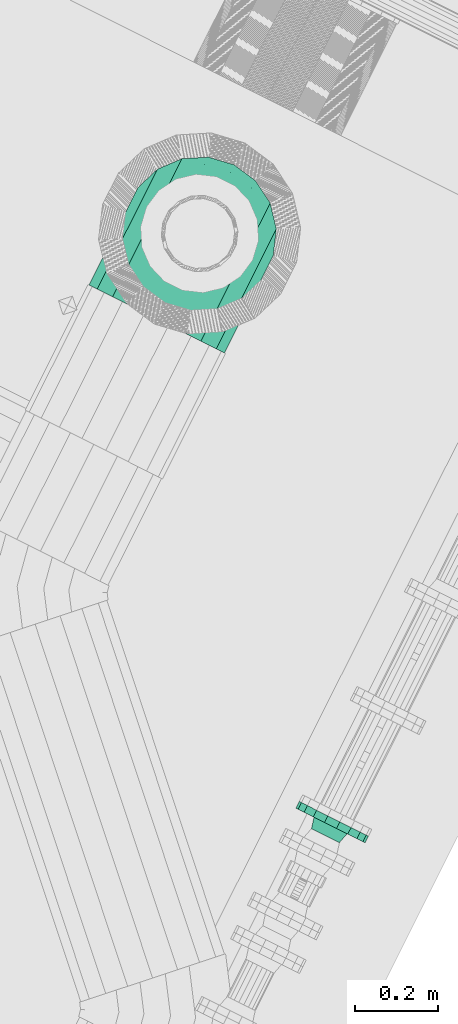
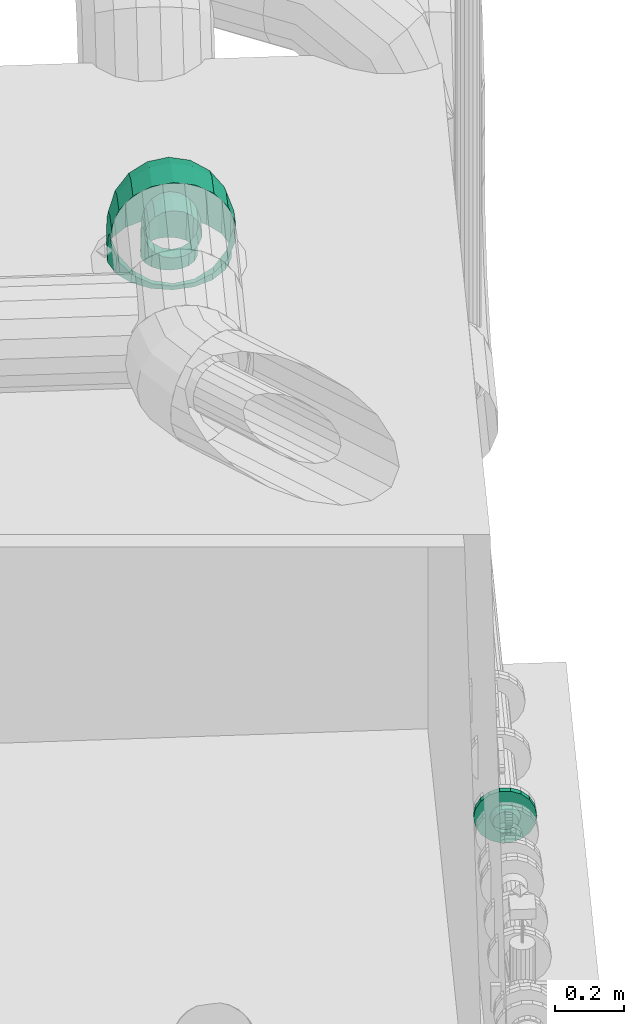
# One storey, part 80 of 206: 1 flow fitting, 1 flow segment.
"""IFC2X3 building model written with IfcOpenShell, lengths in metres."""

from ifc_helpers import new_model, si_unit, derived_unit, direction, frame, origin, place, context, subcontext, project, spatial, face_set, surface_model, source, transform, mapped, material, type_object, type_shapes, element, save


model = new_model("IFC2X3")

# Units and contexts
model_context = context("Model", 3, precision=5.2338327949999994e-05, world=origin(), true_north=direction((0.0, 1.0)))
body_context = subcontext(model_context, "Body", "Model", "MODEL_VIEW")
ifc_project = project(units=[si_unit("LENGTHUNIT", "METRE"), si_unit("AREAUNIT", "SQUARE_METRE"), si_unit("VOLUMEUNIT", "CUBIC_METRE"), si_unit("MASSUNIT", "GRAM", prefix="KILO"), si_unit("PLANEANGLEUNIT", "RADIAN"), derived_unit("THERMALTRANSMITTANCEUNIT", [(si_unit("MASSUNIT", "GRAM", prefix="KILO"), 1), (si_unit("THERMODYNAMICTEMPERATUREUNIT", "KELVIN"), -1), (si_unit("TIMEUNIT", "SECOND"), -3)])], contexts=[model_context])

# Site, building, storey
site_placement = place(None, frame((0.0, 0.0, 0.0), z_axis=(0.0, 0.0, 1.0), x_axis=(0.8939966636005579, -0.4480736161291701, 0.0)))
site = spatial("IfcSite", under=ifc_project, at=site_placement, Name="Default", CompositionType="ELEMENT")
building_placement = place(site_placement, origin())
building = spatial("IfcBuilding", under=site, at=building_placement, CompositionType="ELEMENT")
storey_placement = place(building_placement, origin())
storey = spatial("IfcBuildingStorey", under=building, at=storey_placement, Name="Erdgeschoss", CompositionType="ELEMENT", Elevation=0.0)

# Flow segment
ifc_material_1 = material(Name="IfcSurfaceStyle #9317")
distribution_element_type_1 = type_object("IfcDistributionElementType", Name="Rohrbogen 340584:Rohrbogen 340584", material=ifc_material_1)
shared_shape_1 = source(origin(), body_context, "Body", "SurfaceModel", [
    surface_model("IfcFaceBasedSurfaceModel", [(26.529823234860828, 7.451457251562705, 2.125000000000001), (26.50104223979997, 7.446382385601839, 2.1250000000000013), (26.50104223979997, 7.4313041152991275, 2.2202004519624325), (26.529823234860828, 7.436130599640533, 2.2217686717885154), (26.50104223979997, 7.387545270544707, 2.3060820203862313), (26.529823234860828, 7.3916509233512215, 2.3090649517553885), (26.50104223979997, 7.319389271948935, 2.3742380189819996), (26.529823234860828, 7.322372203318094, 2.3783436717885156), (26.50104223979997, 7.23350770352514, 2.4179968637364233), (26.529823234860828, 7.235075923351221, 2.422823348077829), (26.50104223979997, 7.138307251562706, 2.4330751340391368), (26.529823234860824, 7.138307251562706, 2.438150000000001), (26.4757326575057, 7.431769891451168, 2.1250000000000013), (26.4757326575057, 7.417406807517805, 2.2156849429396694), (26.475732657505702, 7.375723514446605, 2.2974930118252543), (26.475732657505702, 7.310800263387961, 2.3624162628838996), (26.475732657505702, 7.228992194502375, 2.4040995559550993), (26.475732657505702, 7.138307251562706, 2.418462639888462), (26.45694719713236, 7.409382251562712, 2.1250000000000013), (26.45694719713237, 7.396114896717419, 2.20876678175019), (26.45694719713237, 7.357611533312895, 2.2843338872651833), (26.45694719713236, 7.297641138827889, 2.3443042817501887), (26.45694719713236, 7.2220740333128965, 2.3828076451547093), (26.45694719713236, 7.138307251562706, 2.3960750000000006), (26.446951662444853, 7.381919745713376, 2.1250000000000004), (26.446951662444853, 7.369996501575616, 2.200280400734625), (26.44695166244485, 7.335393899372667, 2.268191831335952), (26.446951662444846, 7.281499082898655, 2.3220866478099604), (26.446951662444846, 7.21358765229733, 2.356689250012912), (26.44695166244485, 7.138307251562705, 2.368612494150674), (26.44695166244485, 7.352694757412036, 2.125000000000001), (26.44695166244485, 7.342201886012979, 2.1912493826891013), (26.44695166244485, 7.3117503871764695, 2.251013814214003), (26.44695166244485, 7.26432106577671, 2.298443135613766), (26.44695166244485, 7.204556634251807, 2.3288946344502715), (26.446951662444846, 7.138307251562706, 2.3393875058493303), (26.456947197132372, 7.3252322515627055, 2.125000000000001), (26.45694719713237, 7.316083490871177, 2.1827630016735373), (26.456947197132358, 7.289532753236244, 2.2348717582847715), (26.456947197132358, 7.2481790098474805, 2.2762255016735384), (26.45694719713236, 7.196070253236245, 2.302776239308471), (26.45694719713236, 7.13830725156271, 2.3119250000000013), (26.4757326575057, 7.302844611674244, 2.1250000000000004), (26.4757326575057, 7.294791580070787, 2.1758448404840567), (26.4757326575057, 7.271420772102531, 2.221712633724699), (26.4757326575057, 7.235019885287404, 2.258113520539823), (26.4757326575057, 7.18915209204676, 2.28148432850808), (26.4757326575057, 7.138307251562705, 2.2895373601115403), (26.501042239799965, 7.288232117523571, 2.1250000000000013), (26.501042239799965, 7.280894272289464, 2.1713293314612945), (26.501042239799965, 7.259599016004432, 2.2131236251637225), (26.501042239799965, 7.226430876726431, 2.2462917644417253), (26.501042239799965, 7.184636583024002, 2.267587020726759), (26.501042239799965, 7.138307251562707, 2.274924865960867), (26.529823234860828, 7.283157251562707, 2.1250000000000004), (26.529823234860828, 7.276067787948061, 2.169761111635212), (26.529823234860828, 7.255493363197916, 2.210140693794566), (26.529823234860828, 7.223447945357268, 2.2421861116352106), (26.529823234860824, 7.183068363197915, 2.2627605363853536), (26.529823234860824, 7.138307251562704, 2.269850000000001), (26.558604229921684, 7.288232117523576, 2.1250000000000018), (26.558604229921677, 7.280894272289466, 2.171329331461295), (26.558604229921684, 7.259599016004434, 2.213123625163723), (26.558604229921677, 7.226430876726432, 2.246291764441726), (26.558604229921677, 7.184636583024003, 2.267587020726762), (26.558604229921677, 7.138307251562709, 2.2749248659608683), (26.583913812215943, 7.302844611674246, 2.125000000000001), (26.583913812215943, 7.294791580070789, 2.1758448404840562), (26.58391381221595, 7.271420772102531, 2.221712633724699), (26.583913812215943, 7.235019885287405, 2.258113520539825), (26.583913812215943, 7.189152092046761, 2.2814843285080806), (26.583913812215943, 7.138307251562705, 2.289537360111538), (26.602699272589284, 7.3252322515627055, 2.125000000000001), (26.602699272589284, 7.316083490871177, 2.1827630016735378), (26.602699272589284, 7.2895327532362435, 2.2348717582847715), (26.602699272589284, 7.248179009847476, 2.2762255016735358), (26.602699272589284, 7.196070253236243, 2.3027762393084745), (26.60269927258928, 7.138307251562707, 2.3119250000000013), (26.612694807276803, 7.352694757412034, 2.125000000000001), (26.612694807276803, 7.342201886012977, 2.1912493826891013), (26.612694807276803, 7.31175038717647, 2.251013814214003), (26.612694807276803, 7.264321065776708, 2.298443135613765), (26.612694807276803, 7.204556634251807, 2.3288946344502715), (26.612694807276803, 7.138307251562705, 2.33938750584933), (26.612694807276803, 7.381919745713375, 2.125000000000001), (26.612694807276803, 7.369996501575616, 2.2002804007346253), (26.612694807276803, 7.335393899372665, 2.2681918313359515), (26.612694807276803, 7.281499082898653, 2.3220866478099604), (26.612694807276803, 7.2135876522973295, 2.356689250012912), (26.612694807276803, 7.138307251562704, 2.3686124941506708), (26.602699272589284, 7.409382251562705, 2.125000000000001), (26.602699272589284, 7.396114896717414, 2.2087667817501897), (26.602699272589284, 7.357611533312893, 2.2843338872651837), (26.602699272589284, 7.297641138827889, 2.344304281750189), (26.602699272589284, 7.222074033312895, 2.3828076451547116), (26.60269927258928, 7.138307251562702, 2.396075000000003), (26.58391381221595, 7.43176989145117, 2.1250000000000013), (26.58391381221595, 7.417406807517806, 2.2156849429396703), (26.58391381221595, 7.375723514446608, 2.2974930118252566), (26.58391381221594, 7.310800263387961, 2.3624162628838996), (26.583913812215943, 7.228992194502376, 2.4040995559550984), (26.583913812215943, 7.138307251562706, 2.4184626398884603), (26.558604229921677, 7.446382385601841, 2.1250000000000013), (26.558604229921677, 7.4313041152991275, 2.2202004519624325), (26.558604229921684, 7.387545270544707, 2.3060820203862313), (26.558604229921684, 7.319389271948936, 2.374238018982), (26.558604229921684, 7.233507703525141, 2.4179968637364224), (26.558604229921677, 7.138307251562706, 2.433075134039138), (26.529823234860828, 7.551457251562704, 2.1250000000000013), (26.466840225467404, 7.540351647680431, 2.1250000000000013), (26.466840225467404, 7.520674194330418, 2.249238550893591), (26.529823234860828, 7.531236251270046, 2.2526703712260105), (26.466840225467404, 7.463568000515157, 2.3613157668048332), (26.529823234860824, 7.472552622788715, 2.367843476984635), (26.4668402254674, 7.374623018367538, 2.4502607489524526), (26.529823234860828, 7.381150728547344, 2.4592453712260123), (26.4668402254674, 7.262545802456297, 2.5073669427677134), (26.529823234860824, 7.265977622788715, 2.5179289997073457), (26.4668402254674, 7.138307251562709, 2.527044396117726), (26.529823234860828, 7.138307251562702, 2.5381500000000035), (26.411453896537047, 7.50837433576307, 2.125000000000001), (26.411453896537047, 7.490261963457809, 2.239357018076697), (26.41145389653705, 7.437697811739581, 2.34251997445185), (26.411453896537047, 7.355827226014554, 2.424390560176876), (26.411453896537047, 7.252664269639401, 2.4769547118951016), (26.411453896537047, 7.138307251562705, 2.49506708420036), (26.37034465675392, 7.4593822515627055, 2.125000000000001), (26.37034465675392, 7.443667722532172, 2.224217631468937), (26.370344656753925, 7.398062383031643, 2.3137231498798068), (26.37034465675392, 7.3270304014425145, 2.38475513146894), (26.37034465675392, 7.237524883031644, 2.4303604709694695), (26.37034465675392, 7.138307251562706, 2.446075), (26.348470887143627, 7.399284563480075, 2.125000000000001), (26.348470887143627, 7.386511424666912, 2.205646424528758), (26.348470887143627, 7.349442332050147, 2.278398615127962), (26.348470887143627, 7.291705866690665, 2.3361350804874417), (26.348470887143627, 7.218953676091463, 2.373204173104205), (26.348470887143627, 7.138307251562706, 2.3859773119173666), (26.348470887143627, 7.33532993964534, 2.1250000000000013), (26.348470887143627, 7.325686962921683, 2.1858833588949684), (26.348470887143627, 7.29770195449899, 2.2408070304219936), (26.348470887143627, 7.254114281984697, 2.284394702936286), (26.348470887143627, 7.1991906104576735, 2.312379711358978), (26.348470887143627, 7.138307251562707, 2.322022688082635), (26.370344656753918, 7.275232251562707, 2.125000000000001), (26.37034465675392, 7.2685306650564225, 2.16731215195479), (26.37034465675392, 7.249081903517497, 2.2054824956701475), (26.37034465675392, 7.2187897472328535, 2.23577465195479), (26.37034465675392, 7.180619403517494, 2.2552234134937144), (26.37034465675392, 7.138307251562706, 2.2619249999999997), (26.411453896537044, 7.226240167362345, 2.125000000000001), (26.411453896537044, 7.221936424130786, 2.1521727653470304), (26.411453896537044, 7.209446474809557, 2.176685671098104), (26.411453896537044, 7.189992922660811, 2.1961392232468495), (26.41145389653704, 7.165480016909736, 2.20862917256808), (26.411453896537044, 7.138307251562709, 2.212932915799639), (26.4668402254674, 7.194262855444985, 2.125000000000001), (26.4668402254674, 7.191524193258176, 2.1422912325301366), (26.466840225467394, 7.183576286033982, 2.1578898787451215), (26.4668402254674, 7.171197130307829, 2.1702690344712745), (26.4668402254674, 7.155598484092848, 2.1782169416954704), (26.4668402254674, 7.138307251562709, 2.1809556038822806), (26.529823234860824, 7.183157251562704, 2.125000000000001), (26.529823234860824, 7.1809621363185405, 2.1388594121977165), (26.529823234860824, 7.174591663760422, 2.151362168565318), (26.529823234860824, 7.164669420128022, 2.1612844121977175), (26.529823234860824, 7.152166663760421, 2.1676548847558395), (26.529823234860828, 7.138307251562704, 2.169850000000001), (26.592806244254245, 7.194262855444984, 2.125000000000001), (26.592806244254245, 7.191524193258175, 2.142291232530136), (26.59280624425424, 7.183576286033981, 2.1578898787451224), (26.59280624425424, 7.171197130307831, 2.170269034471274), (26.59280624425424, 7.155598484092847, 2.178216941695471), (26.592806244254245, 7.138307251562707, 2.1809556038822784), (26.6481925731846, 7.226240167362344, 2.125000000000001), (26.6481925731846, 7.221936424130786, 2.1521727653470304), (26.6481925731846, 7.209446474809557, 2.176685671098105), (26.6481925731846, 7.189992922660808, 2.196139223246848), (26.6481925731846, 7.165480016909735, 2.2086291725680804), (26.6481925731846, 7.138307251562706, 2.2129329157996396), (26.68930181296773, 7.2752322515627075, 2.125000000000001), (26.68930181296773, 7.2685306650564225, 2.167312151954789), (26.68930181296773, 7.249081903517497, 2.205482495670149), (26.68930181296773, 7.218789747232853, 2.235774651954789), (26.68930181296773, 7.180619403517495, 2.2552234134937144), (26.68930181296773, 7.138307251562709, 2.261925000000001), (26.711175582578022, 7.33532993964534, 2.1250000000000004), (26.711175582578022, 7.325686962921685, 2.1858833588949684), (26.71117558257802, 7.29770195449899, 2.2408070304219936), (26.711175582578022, 7.254114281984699, 2.2843947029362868), (26.71117558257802, 7.199190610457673, 2.312379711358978), (26.711175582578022, 7.138307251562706, 2.3220226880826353), (26.711175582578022, 7.399284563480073, 2.125000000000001), (26.711175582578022, 7.386511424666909, 2.2056464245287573), (26.711175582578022, 7.349442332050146, 2.2783986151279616), (26.711175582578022, 7.291705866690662, 2.3361350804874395), (26.711175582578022, 7.218953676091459, 2.3732041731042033), (26.711175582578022, 7.138307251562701, 2.3859773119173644), (26.68930181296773, 7.459382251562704, 2.125000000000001), (26.689301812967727, 7.443667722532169, 2.224217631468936), (26.68930181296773, 7.3980623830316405, 2.3137231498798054), (26.68930181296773, 7.327030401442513, 2.3847551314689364), (26.689301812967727, 7.237524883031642, 2.4303604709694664), (26.689301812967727, 7.138307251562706, 2.4460750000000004), (26.6481925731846, 7.508374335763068, 2.125000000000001), (26.6481925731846, 7.490261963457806, 2.2393570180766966), (26.6481925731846, 7.4376978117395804, 2.3425199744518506), (26.6481925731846, 7.355827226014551, 2.4243905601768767), (26.6481925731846, 7.252664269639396, 2.4769547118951), (26.6481925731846, 7.138307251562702, 2.4950670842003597), (26.592806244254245, 7.5403516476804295, 2.125000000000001), (26.592806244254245, 7.520674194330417, 2.2492385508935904), (26.59280624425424, 7.4635680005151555, 2.361315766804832), (26.592806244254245, 7.374623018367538, 2.4502607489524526), (26.592806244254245, 7.262545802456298, 2.5073669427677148), (26.59280624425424, 7.138307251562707, 2.527044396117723)], [face_set([[[0, 1, 2, 3]], [[3, 2, 4, 5]], [[5, 4, 6, 7]], [[7, 6, 8, 9]], [[9, 8, 10, 11]], [[1, 12, 13, 2]], [[2, 13, 14, 4]], [[4, 14, 15, 6]], [[6, 15, 16, 8]], [[8, 16, 17, 10]], [[12, 18, 19, 13]], [[13, 19, 20, 14]], [[14, 20, 21, 15]], [[15, 21, 22, 16]], [[16, 22, 23, 17]], [[18, 24, 25, 19]], [[19, 25, 26, 20]], [[20, 26, 27, 21]], [[21, 27, 28, 22]], [[22, 28, 29, 23]], [[24, 30, 31, 25]], [[25, 31, 32, 26]], [[26, 32, 33, 27]], [[27, 33, 34, 28]], [[28, 34, 35, 29]], [[30, 36, 37, 31]], [[31, 37, 38, 32]], [[32, 38, 39, 33]], [[33, 39, 40, 34]], [[34, 40, 41, 35]], [[36, 42, 43, 37]], [[37, 43, 44, 38]], [[38, 44, 45, 39]], [[39, 45, 46, 40]], [[40, 46, 47, 41]], [[42, 48, 49, 43]], [[43, 49, 50, 44]], [[44, 50, 51, 45]], [[45, 51, 52, 46]], [[46, 52, 53, 47]], [[48, 54, 55, 49]], [[49, 55, 56, 50]], [[50, 56, 57, 51]], [[51, 57, 58, 52]], [[52, 58, 59, 53]], [[54, 60, 61, 55]], [[55, 61, 62, 56]], [[56, 62, 63, 57]], [[57, 63, 64, 58]], [[58, 64, 65, 59]], [[60, 66, 67, 61]], [[61, 67, 68, 62]], [[62, 68, 69, 63]], [[63, 69, 70, 64]], [[64, 70, 71, 65]], [[66, 72, 73, 67]], [[67, 73, 74, 68]], [[68, 74, 75, 69]], [[69, 75, 76, 70]], [[70, 76, 77, 71]], [[72, 78, 79, 73]], [[73, 79, 80, 74]], [[74, 80, 81, 75]], [[75, 81, 82, 76]], [[76, 82, 83, 77]], [[78, 84, 85, 79]], [[79, 85, 86, 80]], [[80, 86, 87, 81]], [[81, 87, 88, 82]], [[82, 88, 89, 83]], [[84, 90, 91, 85]], [[85, 91, 92, 86]], [[86, 92, 93, 87]], [[87, 93, 94, 88]], [[88, 94, 95, 89]], [[90, 96, 97, 91]], [[91, 97, 98, 92]], [[92, 98, 99, 93]], [[93, 99, 100, 94]], [[94, 100, 101, 95]], [[96, 102, 103, 97]], [[97, 103, 104, 98]], [[98, 104, 105, 99]], [[99, 105, 106, 100]], [[100, 106, 107, 101]], [[102, 0, 3, 103]], [[103, 3, 5, 104]], [[104, 5, 7, 105]], [[105, 7, 9, 106]], [[106, 9, 11, 107]], [[108, 109, 110, 111]], [[111, 110, 112, 113]], [[113, 112, 114, 115]], [[115, 114, 116, 117]], [[117, 116, 118, 119]], [[109, 120, 121, 110]], [[110, 121, 122, 112]], [[112, 122, 123, 114]], [[114, 123, 124, 116]], [[116, 124, 125, 118]], [[120, 126, 127, 121]], [[121, 127, 128, 122]], [[122, 128, 129, 123]], [[123, 129, 130, 124]], [[124, 130, 131, 125]], [[126, 132, 133, 127]], [[127, 133, 134, 128]], [[128, 134, 135, 129]], [[129, 135, 136, 130]], [[130, 136, 137, 131]], [[132, 138, 139, 133]], [[133, 139, 140, 134]], [[134, 140, 141, 135]], [[135, 141, 142, 136]], [[136, 142, 143, 137]], [[138, 144, 145, 139]], [[139, 145, 146, 140]], [[140, 146, 147, 141]], [[141, 147, 148, 142]], [[142, 148, 149, 143]], [[144, 150, 151, 145]], [[145, 151, 152, 146]], [[146, 152, 153, 147]], [[147, 153, 154, 148]], [[148, 154, 155, 149]], [[150, 156, 157, 151]], [[151, 157, 158, 152]], [[152, 158, 159, 153]], [[153, 159, 160, 154]], [[154, 160, 161, 155]], [[156, 162, 163, 157]], [[157, 163, 164, 158]], [[158, 164, 165, 159]], [[159, 165, 166, 160]], [[160, 166, 167, 161]], [[162, 168, 169, 163]], [[163, 169, 170, 164]], [[164, 170, 171, 165]], [[165, 171, 172, 166]], [[166, 172, 173, 167]], [[168, 174, 175, 169]], [[169, 175, 176, 170]], [[170, 176, 177, 171]], [[171, 177, 178, 172]], [[172, 178, 179, 173]], [[174, 180, 181, 175]], [[175, 181, 182, 176]], [[176, 182, 183, 177]], [[177, 183, 184, 178]], [[178, 184, 185, 179]], [[180, 186, 187, 181]], [[181, 187, 188, 182]], [[182, 188, 189, 183]], [[183, 189, 190, 184]], [[184, 190, 191, 185]], [[186, 192, 193, 187]], [[187, 193, 194, 188]], [[188, 194, 195, 189]], [[189, 195, 196, 190]], [[190, 196, 197, 191]], [[192, 198, 199, 193]], [[193, 199, 200, 194]], [[194, 200, 201, 195]], [[195, 201, 202, 196]], [[196, 202, 203, 197]], [[198, 204, 205, 199]], [[199, 205, 206, 200]], [[200, 206, 207, 201]], [[201, 207, 208, 202]], [[202, 208, 209, 203]], [[204, 210, 211, 205]], [[205, 211, 212, 206]], [[206, 212, 213, 207]], [[207, 213, 214, 208]], [[208, 214, 215, 209]], [[210, 108, 111, 211]], [[211, 111, 113, 212]], [[212, 113, 115, 213]], [[213, 115, 117, 214]], [[214, 117, 119, 215]]])]),
])
type_shapes(distribution_element_type_1, [shared_shape_1])
flow_segment_placement = place(storey_placement, origin())
element("IfcFlowSegment", 1, at=flow_segment_placement, inside=storey, type_object=distribution_element_type_1, material=ifc_material_1, Name="Rohrbogen", ObjectType="Rohrbogen", context=body_context, shape_type="MappedRepresentation", body=[
    mapped(shared_shape_1, transform((0.0, 0.0, 0.0), scale=1.0)),
])

# Flow fitting
ifc_material_2 = material(Name="IfcSurfaceStyle #352577")
distribution_element_type_2 = type_object("IfcDistributionElementType", Name="Flansch 604952:Flansch 604952", material=ifc_material_2)
shared_shape_2 = source(origin(), body_context, "Body", "SurfaceModel", [
    surface_model("IfcFaceBasedSurfaceModel", [(27.353142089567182, 6.25795839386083, 0.8699999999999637), (27.358720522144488, 6.25795839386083, 0.8383631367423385), (27.358720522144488, 6.239958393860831, 0.8383631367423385), (27.353142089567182, 6.239958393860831, 0.8699999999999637), (27.37478297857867, 6.25795839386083, 0.8105421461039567), (27.37478297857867, 6.239958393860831, 0.8105421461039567), (27.399392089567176, 6.25795839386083, 0.7898926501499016), (27.399392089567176, 6.239958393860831, 0.7898926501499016), (27.429579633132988, 6.25795839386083, 0.778905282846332), (27.429579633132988, 6.239958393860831, 0.778905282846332), (27.46170454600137, 6.25795839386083, 0.7789052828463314), (27.46170454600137, 6.239958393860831, 0.7789052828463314), (27.491892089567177, 6.25795839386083, 0.7898926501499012), (27.491892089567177, 6.239958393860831, 0.7898926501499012), (27.516501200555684, 6.25795839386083, 0.8105421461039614), (27.516501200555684, 6.239958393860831, 0.8105421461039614), (27.532563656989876, 6.25795839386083, 0.8383631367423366), (27.532563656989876, 6.239958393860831, 0.8383631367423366), (27.538142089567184, 6.25795839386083, 0.8699999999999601), (27.538142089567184, 6.239958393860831, 0.8699999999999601), (27.532563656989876, 6.25795839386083, 0.9016368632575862), (27.532563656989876, 6.239958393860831, 0.9016368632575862), (27.516501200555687, 6.25795839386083, 0.9294578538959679), (27.516501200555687, 6.239958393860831, 0.9294578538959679), (27.491892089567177, 6.25795839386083, 0.9501073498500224), (27.491892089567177, 6.239958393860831, 0.9501073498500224), (27.46170454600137, 6.25795839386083, 0.9610947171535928), (27.46170454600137, 6.239958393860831, 0.9610947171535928), (27.429579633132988, 6.25795839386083, 0.9610947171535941), (27.429579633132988, 6.239958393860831, 0.9610947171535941), (27.399392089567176, 6.25795839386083, 0.9501073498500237), (27.399392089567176, 6.239958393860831, 0.9501073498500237), (27.37478297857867, 6.25795839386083, 0.9294578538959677), (27.37478297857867, 6.239958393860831, 0.9294578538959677), (27.358720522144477, 6.25795839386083, 0.9016368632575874), (27.358720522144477, 6.239958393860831, 0.9016368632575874), (27.44564208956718, 6.239958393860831, 0.8699999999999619), (27.44564208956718, 6.239958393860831, 0.8249999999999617), (27.461032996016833, 6.239958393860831, 0.8277138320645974), (27.45865595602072, 6.21295839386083, 0.8342446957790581), (27.44564208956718, 6.21295839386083, 0.8319499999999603), (27.47456753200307, 6.23995839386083, 0.8355280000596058), (27.470100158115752, 6.212958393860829, 0.8408520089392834), (27.48461323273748, 6.239958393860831, 0.8474999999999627), (27.478594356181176, 6.21295839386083, 0.8509749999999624), (27.489958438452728, 6.239958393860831, 0.8621858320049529), (27.483114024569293, 6.21295839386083, 0.8633926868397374), (27.489958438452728, 6.239958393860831, 0.8778141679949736), (27.48311402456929, 6.21295839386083, 0.8766073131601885), (27.484613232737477, 6.239958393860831, 0.8924999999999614), (27.478594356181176, 6.21295839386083, 0.8890249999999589), (27.47456753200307, 6.239958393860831, 0.9044719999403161), (27.470100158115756, 6.21295839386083, 0.8991479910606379), (27.46103299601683, 6.239958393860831, 0.9122861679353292), (27.45865595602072, 6.21295839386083, 0.9057553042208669), (27.44564208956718, 6.239958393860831, 0.91499999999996), (27.44564208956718, 6.21295839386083, 0.9080499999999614), (27.430251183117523, 6.239958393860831, 0.9122861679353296), (27.432628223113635, 6.21295839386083, 0.905755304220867), (27.416716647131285, 6.239958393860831, 0.9044719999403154), (27.421184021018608, 6.21295839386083, 0.8991479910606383), (27.406670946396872, 6.239958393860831, 0.8924999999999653), (27.412689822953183, 6.21295839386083, 0.8890249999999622), (27.401325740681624, 6.239958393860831, 0.8778141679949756), (27.40817015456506, 6.21295839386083, 0.8766073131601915), (27.401325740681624, 6.239958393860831, 0.8621858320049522), (27.40817015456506, 6.21295839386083, 0.8633926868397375), (27.40667094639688, 6.239958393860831, 0.8474999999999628), (27.412689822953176, 6.21295839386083, 0.8509749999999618), (27.416716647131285, 6.239958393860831, 0.8355280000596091), (27.421184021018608, 6.21295839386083, 0.8408520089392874), (27.430251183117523, 6.239958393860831, 0.827713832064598), (27.432628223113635, 6.21295839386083, 0.8342446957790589)], [face_set([[[0, 1, 2, 3]], [[1, 4, 5, 2]], [[4, 6, 7, 5]], [[6, 8, 9, 7]], [[8, 10, 11, 9]], [[10, 12, 13, 11]], [[12, 14, 15, 13]], [[14, 16, 17, 15]], [[16, 18, 19, 17]], [[18, 20, 21, 19]], [[20, 22, 23, 21]], [[22, 24, 25, 23]], [[24, 26, 27, 25]], [[26, 28, 29, 27]], [[28, 30, 31, 29]], [[30, 32, 33, 31]], [[32, 34, 35, 33]], [[34, 0, 3, 35]], [[36, 35, 3]], [[36, 33, 35]], [[36, 31, 33]], [[36, 29, 31]], [[36, 27, 29]], [[36, 25, 27]], [[36, 23, 25]], [[36, 21, 23]], [[36, 19, 21]], [[36, 17, 19]], [[36, 15, 17]], [[36, 13, 15]], [[36, 11, 13]], [[36, 9, 11]], [[36, 7, 9]], [[36, 5, 7]], [[36, 2, 5]], [[36, 3, 2]], [[37, 38, 39, 40]], [[38, 41, 42, 39]], [[41, 43, 44, 42]], [[43, 45, 46, 44]], [[45, 47, 48, 46]], [[47, 49, 50, 48]], [[49, 51, 52, 50]], [[51, 53, 54, 52]], [[53, 55, 56, 54]], [[55, 57, 58, 56]], [[57, 59, 60, 58]], [[59, 61, 62, 60]], [[61, 63, 64, 62]], [[63, 65, 66, 64]], [[65, 67, 68, 66]], [[67, 69, 70, 68]], [[69, 71, 72, 70]], [[71, 37, 40, 72]]])]),
])
type_shapes(distribution_element_type_2, [shared_shape_2])
flow_fitting_placement = place(storey_placement, origin())
element("IfcFlowFitting", 2, at=flow_fitting_placement, inside=storey, type_object=distribution_element_type_2, material=ifc_material_2, Name="Flansch", ObjectType="Flansch", context=body_context, shape_type="MappedRepresentation", body=[
    mapped(shared_shape_2, transform((0.0, 0.0, 0.0), scale=1.0)),
])

save(model, "model.ifc")
